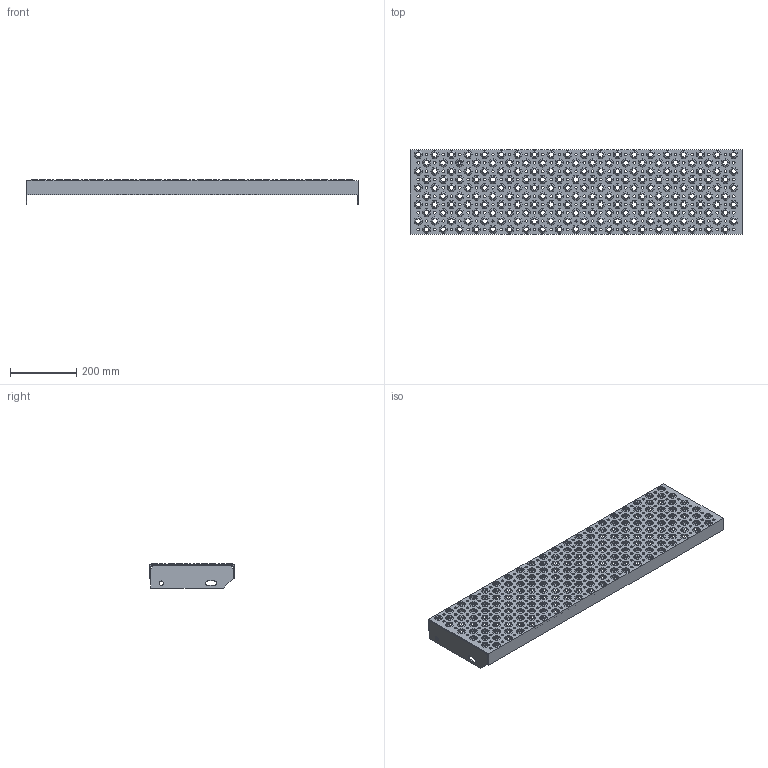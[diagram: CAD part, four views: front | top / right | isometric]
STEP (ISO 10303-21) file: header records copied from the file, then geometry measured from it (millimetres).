
FILE_DESCRIPTION(('Open CASCADE Model'),'2;1');
FILE_NAME('Open CASCADE Shape Model','2020-06-30T11:52:36',('Author'),( 'Open CASCADE'),'Open CASCADE STEP processor 7.2','Open CASCADE 7.2' ,'Unknown');
FILE_SCHEMA(('AUTOMOTIVE_DESIGN { 1 0 10303 214 1 1 1 1 }'));
Length unit declared in the file: millimetre
Products named in the file (8211): Open CASCADE STEP translator 7.2 1; Open CASCADE STEP translator 7.2 2; Open CASCADE STEP translator 7.2 3; Open CASCADE STEP translator 7.2 3.1; Open CASCADE STEP translator 7.2 3.2; Open CASCADE STEP translator 7.2 3.3; Open CASCADE STEP translator 7.2 3.4; Open CASCADE STEP translator 7.2 3.5; Open CASCADE STEP translator 7.2 3.6; Open CASCADE STEP translator 7.2 3.7; Open CASCADE STEP translator 7.2 3.8; Open CASCADE STEP translator 7.2 3.9; Open CASCADE STEP translator 7.2 3.10; Open CASCADE STEP translator 7.2 3.11; Open CASCADE STEP translator 7.2 3.12; Open CASCADE STEP translator 7.2 3.13; Open CASCADE STEP translator 7.2 3.14; Open CASCADE STEP translator 7.2 3.15; Open CASCADE STEP translator 7.2 3.16; Open CASCADE STEP translator 7.2 3.17; Open CASCADE STEP translator 7.2 3.18; Open CASCADE STEP translator 7.2 3.19; Open CASCADE STEP translator 7.2 3.20; Open CASCADE STEP translator 7.2 3.21; Open CASCADE STEP translator 7.2 3.22; Open CASCADE STEP translator 7.2 3.23; Open CASCADE STEP translator 7.2 3.24; Open CASCADE STEP translator 7.2 3.25; Open CASCADE STEP translator 7.2 3.26; Open CASCADE STEP translator 7.2 3.27; Open CASCADE STEP translator 7.2 3.28; Open CASCADE STEP translator 7.2 3.29; Open CASCADE STEP translator 7.2 3.30; Open CASCADE STEP translator 7.2 3.31; Open CASCADE STEP translator 7.2 3.32; Open CASCADE STEP translator 7.2 3.33; Open CASCADE STEP translator 7.2 3.34; Open CASCADE STEP translator 7.2 3.35; Open CASCADE STEP translator 7.2 3.36; Open CASCADE STEP translator 7.2 3.37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
Assembly tree (8208 placements, depth 2):
  Open CASCADE STEP translator 7.2 1
  Open CASCADE STEP translator 7.2 2
  Open CASCADE STEP translator 7.2 3
    Open CASCADE STEP translator 7.2 3.1
    Open CASCADE STEP translator 7.2 3.2
    Open CASCADE STEP translator 7.2 3.3
    Open CASCADE STEP translator 7.2 3.4
    Open CASCADE STEP translator 7.2 3.5
    Open CASCADE STEP translator 7.2 3.6
    Open CASCADE STEP translator 7.2 3.7
    Open CASCADE STEP translator 7.2 3.8
    Open CASCADE STEP translator 7.2 3.9
    Open CASCADE STEP translator 7.2 3.10
    Open CASCADE STEP translator 7.2 3.11
    Open CASCADE STEP translator 7.2 3.12
    Open CASCADE STEP translator 7.2 3.13
    Open CASCADE STEP translator 7.2 3.14
    Open CASCADE STEP translator 7.2 3.15
    Open CASCADE STEP translator 7.2 3.16
    Open CASCADE STEP translator 7.2 3.17
    Open CASCADE STEP translator 7.2 3.18
    Open CASCADE STEP translator 7.2 3.19
    Open CASCADE STEP translator 7.2 3.20
    Open CASCADE STEP translator 7.2 3.21
    Open CASCADE STEP translator 7.2 3.22
    Open CASCADE STEP translator 7.2 3.23
    Open CASCADE STEP translator 7.2 3.24
    Open CASCADE STEP translator 7.2 3.25
    Open CASCADE STEP translator 7.2 3.26
    Open CASCADE STEP translator 7.2 3.27
    Open CASCADE STEP translator 7.2 3.28
    Open CASCADE STEP translator 7.2 3.29
    Open CASCADE STEP translator 7.2 3.30
    Open CASCADE STEP translator 7.2 3.31
    Open CASCADE STEP translator 7.2 3.32
    Open CASCADE STEP translator 7.2 3.33
    Open CASCADE STEP translator 7.2 3.34
    Open CASCADE STEP translator 7.2 3.35
    Open CASCADE STEP translator 7.2 3.36
    Open CASCADE STEP translator 7.2 3.37
    Open CASCADE STEP translator 7.2 3.38
    Open CASCADE STEP translator 7.2 3.39
    Open CASCADE STEP translator 7.2 3.40
    Open CASCADE STEP translator 7.2 3.41
    Open CASCADE STEP translator 7.2 3.42
    Open CASCADE STEP translator 7.2 3.43
    Open CASCADE STEP translator 7.2 3.44
    Open CASCADE STEP translator 7.2 3.45
    Open CASCADE STEP translator 7.2 3.46
    Open CASCADE STEP translator 7.2 3.47
    Open CASCADE STEP translator 7.2 3.48
    Open CASCADE STEP translator 7.2 3.49
    Open CASCADE STEP translator 7.2 3.50
    Open CASCADE STEP translator 7.2 3.51
    Open CASCADE STEP translator 7.2 3.52
    Open CASCADE STEP translator 7.2 3.53
    Open CASCADE STEP translator 7.2 3.54
    Open CASCADE STEP translator 7.2 3.55
    Open CASCADE STEP translator 7.2 3.56
    Open CASCADE STEP translator 7.2 3.57
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Bounding box: 1000 x 255 x 73 mm (x, y, z)
Volume: 93645.2 mm3; surface area: 859030.7 mm2
Topology: 2 solids, 8210 shells, 8236 faces, 46968 edges, 46944 vertices
Faces by surface type: plane 8230, cylinder 6
Full cylindrical faces by diameter (mm): 13 x2
Entity records: 937420 total; most frequent: CARTESIAN_POINT 157445, DIRECTION 126882, LINE 93960, VECTOR 93960, ORIENTED_EDGE 47040, PCURVE 47040, DEFINITIONAL_REPRESENTATION 47040, EDGE_CURVE 46968
